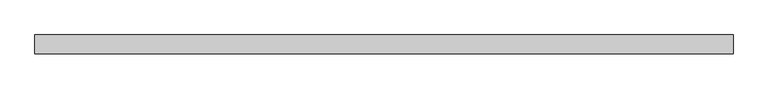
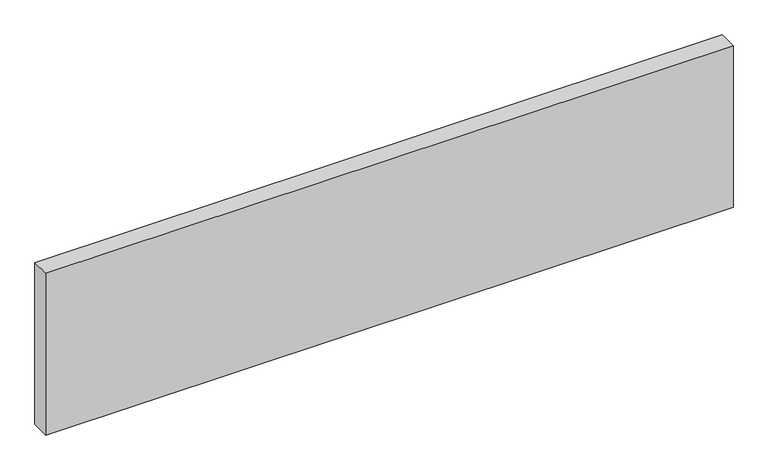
"""IFC4 building model written with IfcOpenShell, lengths in millimetres: plate geometry, 系统嵌板 : 玻璃."""

from ifc_helpers import new_model, si_unit, origin, origin_with_axes, place, context, project, spatial, polyline, outline, extrude, source, transform, mapped, element, save


def plate_8c709d47(model_context):
    return source(origin(), model_context, "Body", "SweptSolid", [
        extrude(outline(polyline([(1105.0, -30.0), (-1105.0, -30.0), (-1105.0, 30.0), (1105.0, 30.0), (1105.0, -30.0)])), origin_with_axes(), (0.0, 0.0, 1.0), 550.0),
    ])


if __name__ == "__main__":
    model = new_model("IFC4")
    model_context = context("Model", 3, world=origin())
    ifc_project = project(units=[si_unit("LENGTHUNIT", "METRE", prefix="MILLI")], contexts=[model_context])
    site = spatial("IfcSite", under=ifc_project)
    building = spatial("IfcBuilding", under=site)
    placement = place(None, origin())
    plate_shape = plate_8c709d47(model_context)
    element("IfcPlate", 1, ObjectType="系统嵌板 : 玻璃", at=placement, inside=building, context=model_context, shape_type="MappedRepresentation", body=[
        mapped(plate_shape, transform((0.0, 0.0, 0.0), x_axis=(1.0, 0.0, 0.0), y_axis=(0.0, 1.0, 0.0), z_axis=(0.0, 0.0, 1.0))),
    ])
    save(model, "model.ifc")
